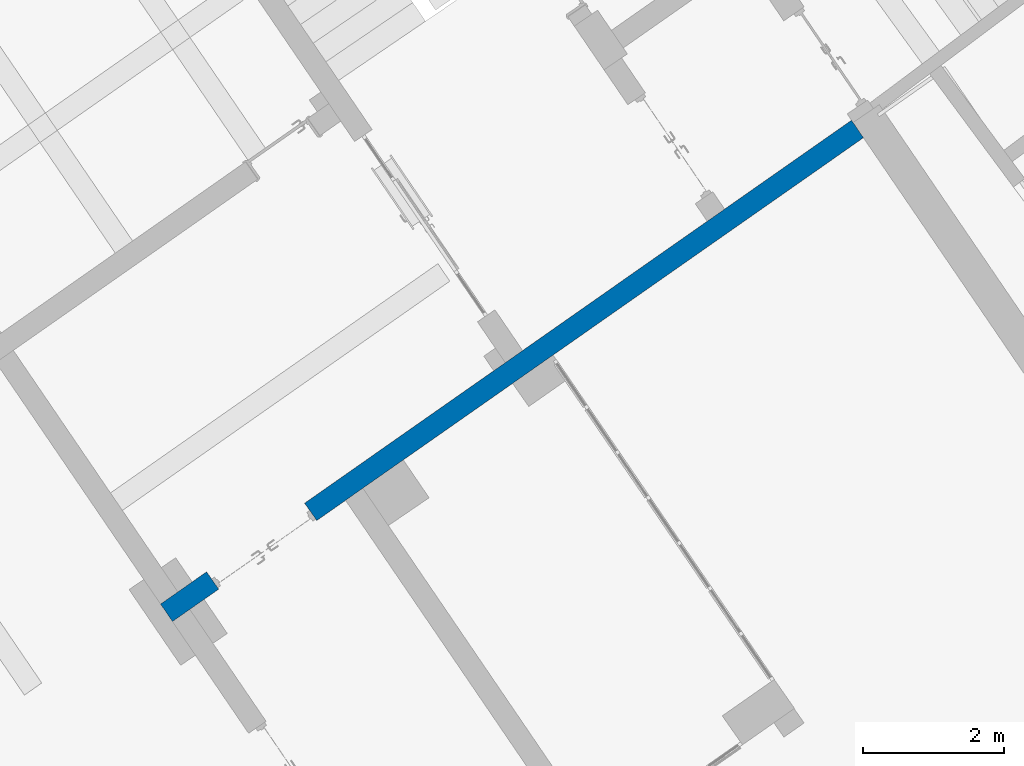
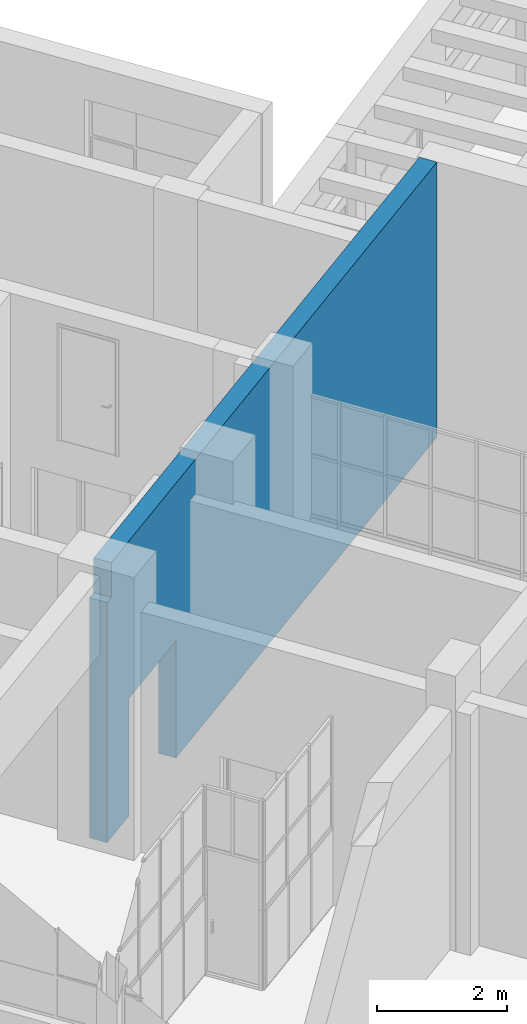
# One storey, part 130 of 157: 1 wall, 1 opening.
"""IFC2X3 building model written with IfcOpenShell, lengths in millimetres."""

from ifc_helpers import new_model, entity, si_unit, converted_unit, derived_unit, direction, frame, frame_2d, origin, place, context, subcontext, project, spatial, rectangle, extrude, faceted_brep, material, layer, layer_set, type_object, element, save


model = new_model("IFC2X3")

# Units and contexts
model_context = context("Model", 3, precision=0.01, world=origin(), true_north=direction((6.123031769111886e-17, 1.0)))
body_context = subcontext(model_context, "Body", "Model", "MODEL_VIEW")
ifc_project = project(units=[si_unit("LENGTHUNIT", "METRE", prefix="MILLI"), si_unit("AREAUNIT", "SQUARE_METRE"), si_unit("VOLUMEUNIT", "CUBIC_METRE"), converted_unit("PLANEANGLEUNIT", "DEGREE", entity("IfcRatioMeasure", 0.017453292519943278), si_unit("PLANEANGLEUNIT", "RADIAN"), dimensions=[0, 0, 0, 0, 0, 0, 0]), si_unit("MASSUNIT", "GRAM", prefix="KILO"), derived_unit("MASSDENSITYUNIT", [(si_unit("MASSUNIT", "GRAM", prefix="KILO"), 1), (si_unit("LENGTHUNIT", "METRE"), -3)]), derived_unit("MOMENTOFINERTIAUNIT", [(si_unit("LENGTHUNIT", "METRE"), 4)]), si_unit("TIMEUNIT", "SECOND"), si_unit("FREQUENCYUNIT", "HERTZ"), si_unit("THERMODYNAMICTEMPERATUREUNIT", "DEGREE_CELSIUS"), derived_unit("THERMALTRANSMITTANCEUNIT", [(si_unit("MASSUNIT", "GRAM", prefix="KILO"), 1), (si_unit("THERMODYNAMICTEMPERATUREUNIT", "KELVIN"), -1), (si_unit("TIMEUNIT", "SECOND"), -3)]), derived_unit("THERMALCONDUCTANCEUNIT", [(si_unit("MASSUNIT", "GRAM", prefix="KILO"), 1), (si_unit("LENGTHUNIT", "METRE"), 1), (si_unit("THERMODYNAMICTEMPERATUREUNIT", "KELVIN"), -1), (si_unit("TIMEUNIT", "SECOND"), -3)]), derived_unit("VOLUMETRICFLOWRATEUNIT", [(si_unit("LENGTHUNIT", "METRE"), 3), (si_unit("TIMEUNIT", "SECOND"), -1)]), derived_unit("MASSFLOWRATEUNIT", [(si_unit("MASSUNIT", "GRAM", prefix="KILO"), 1), (si_unit("TIMEUNIT", "SECOND"), -1)]), derived_unit("ROTATIONALFREQUENCYUNIT", [(si_unit("TIMEUNIT", "SECOND"), -1)]), si_unit("ELECTRICCURRENTUNIT", "AMPERE"), si_unit("ELECTRICVOLTAGEUNIT", "VOLT"), si_unit("POWERUNIT", "WATT"), converted_unit("FORCEUNIT", "KIP", entity("IfcRatioMeasure", 2.088543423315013e-05), si_unit("FORCEUNIT", "NEWTON"), dimensions=[1, 1, -2, 0, 0, 0, 0]), si_unit("ILLUMINANCEUNIT", "LUX"), si_unit("LUMINOUSFLUXUNIT", "LUMEN"), si_unit("LUMINOUSINTENSITYUNIT", "CANDELA"), derived_unit("USERDEFINED", [(si_unit("MASSUNIT", "GRAM", prefix="KILO"), -1), (si_unit("LENGTHUNIT", "METRE"), -2), (si_unit("TIMEUNIT", "SECOND"), 3), (si_unit("LUMINOUSFLUXUNIT", "LUMEN"), 1)]), derived_unit("USERDEFINED", [(si_unit("MASSUNIT", "GRAM", prefix="KILO"), 1), (si_unit("LENGTHUNIT", "METRE"), 3), (si_unit("TIMEUNIT", "SECOND"), -3), (si_unit("ELECTRICCURRENTUNIT", "AMPERE"), -2)]), derived_unit("USERDEFINED", [(si_unit("LENGTHUNIT", "METRE"), 2), (si_unit("TIMEUNIT", "SECOND"), -2)]), derived_unit("SOUNDPOWERUNIT", [(si_unit("MASSUNIT", "GRAM", prefix="KILO"), 1), (si_unit("LENGTHUNIT", "METRE"), 2), (si_unit("TIMEUNIT", "SECOND"), -3)]), derived_unit("SOUNDPRESSUREUNIT", [(si_unit("MASSUNIT", "GRAM", prefix="KILO"), 1), (si_unit("LENGTHUNIT", "METRE"), -1), (si_unit("TIMEUNIT", "SECOND"), -2)]), derived_unit("LINEARVELOCITYUNIT", [(si_unit("LENGTHUNIT", "METRE"), 1), (si_unit("TIMEUNIT", "SECOND"), -1)]), si_unit("PRESSUREUNIT", "PASCAL"), derived_unit("USERDEFINED", [(si_unit("LENGTHUNIT", "METRE"), -2), (si_unit("MASSUNIT", "GRAM", prefix="KILO"), 1), (si_unit("TIMEUNIT", "SECOND"), -2)]), derived_unit("LINEARFORCEUNIT", [(si_unit("MASSUNIT", "GRAM", prefix="KILO"), 1), (si_unit("LENGTHUNIT", "METRE"), 1), (si_unit("TIMEUNIT", "SECOND"), -2), (si_unit("LENGTHUNIT", "METRE"), -1)]), derived_unit("PLANARFORCEUNIT", [(si_unit("MASSUNIT", "GRAM", prefix="KILO"), 1), (si_unit("LENGTHUNIT", "METRE"), 1), (si_unit("TIMEUNIT", "SECOND"), -2), (si_unit("LENGTHUNIT", "METRE"), -2)]), derived_unit("SPECIFICHEATCAPACITYUNIT", [(si_unit("LENGTHUNIT", "METRE"), 2), (si_unit("TIMEUNIT", "SECOND"), -2), (si_unit("THERMODYNAMICTEMPERATUREUNIT", "KELVIN"), -1)]), derived_unit("VAPORPERMEABILITYUNIT", [(si_unit("TIMEUNIT", "SECOND"), 1), (si_unit("LENGTHUNIT", "METRE"), -1)]), derived_unit("DYNAMICVISCOSITYUNIT", [(si_unit("MASSUNIT", "GRAM", prefix="KILO"), 1), (si_unit("LENGTHUNIT", "METRE"), -1), (si_unit("TIMEUNIT", "SECOND"), -1)]), derived_unit("THERMALEXPANSIONCOEFFICIENTUNIT", [(si_unit("THERMODYNAMICTEMPERATUREUNIT", "KELVIN"), -1)])], contexts=[model_context])

# Site, building, storey
site_placement = place(None, frame((0.0, 0.0, 0.0), z_axis=(0.0, 0.0, 1.0), x_axis=(0.8191520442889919, 0.5735764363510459, 0.0)))
site = spatial("IfcSite", under=ifc_project, at=site_placement, Name="Default", CompositionType="ELEMENT")
building_placement = place(site_placement, origin())
building = spatial("IfcBuilding", under=site, at=building_placement, CompositionType="ELEMENT")
storey_placement = place(building_placement, origin())
storey = spatial("IfcBuildingStorey", under=building, at=storey_placement, Name="1.EG +0.00", CompositionType="ELEMENT", Elevation=-4.331468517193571e-12)

# Wall, opening
ifc_material = material(Name="Analytical Wall Surface_CJC")
ifc_layer = layer(ifc_material, 300.0)
ifc_layer_set = layer_set([ifc_layer], Name="Basic Wall:Wand_Innen_30")
wall_type = type_object("IfcWallType", Name="Basic Wall:Wand_Innen_30", PredefinedType="STANDARD", material=ifc_layer_set)
wall_placement = place(storey_placement, frame((-216459.90797495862, 163971.35891435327, 0.0)))
wall = element("IfcWall", 1, at=wall_placement, inside=storey, type_object=wall_type, Name="Basic Wall:Wand_Innen_30", ObjectType="Basic Wall:Wand_Innen_30", context=body_context, shape_type="Brep", body=[
    faceted_brep([(11975.7313052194, -150.0, 5150.0), (6595.15489703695, -150.0, 5150.0), (5895.15489703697, -150.0, 5150.0), (4000.093185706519, -150.0, 5150.0), (3200.0283608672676, -150.0, 5150.0), (547.2675047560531, -150.0, 5150.0), (151.92174753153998, -150.0, 5150.0), (151.92174753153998, -150.0, 4500.0), (0.0, -150.0, 4500.0), (0.0, -150.0, 3700.0), (0.0, -150.0, 0.0), (300.02430931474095, -150.0, 0.0), (547.2675047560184, -150.0, 0.0), (800.6247463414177, -150.0, 0.0), (800.6247463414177, -150.0, 2200.0), (2500.6247463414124, -150.0, 2200.0), (2500.6247463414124, -150.0, 0.0), (3000.0, -150.0, 0.0), (3300.024309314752, -150.0, 0.0), (4000.0931857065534, -150.0, 0.0), (5895.15489703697, -150.0, 0.0), (6595.154897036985, -150.0, 0.0), (11975.739408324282, -150.0, 0.0), (11975.7313052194, -150.0, 2500.0), (151.92174753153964, 150.0, 5150.0), (303.8434950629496, 150.0, 5150.0), (551.0866905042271, 150.0, 5150.0), (5779.048098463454, 150.0, 5150.0), (5895.15489703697, 150.0, 5150.0), (5979.074433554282, 150.0, 5150.0), (6279.098742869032, 150.0, 5150.0), (6595.15489703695, 150.0, 5150.0), (9479.343861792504, 150.0, 5150.0), (9779.368171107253, 150.0, 5150.0), (11979.55049096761, 150.0, 5150.0), (11979.55859407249, 150.0, 2500.0), (11979.55859407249, 150.0, 0.0), (9779.368171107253, 150.0, 0.0), (9479.343861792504, 150.0, 0.0), (6279.098742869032, 150.0, 0.0), (5979.074433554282, 150.0, 0.0), (5779.048098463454, 150.0, 0.0), (2500.624746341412, 150.0, 0.0), (2500.6247463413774, 150.0, 2200.0), (800.6247463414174, 150.0, 2200.0), (800.6247463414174, 150.0, 0.0), (551.0866905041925, 150.0, 0.0), (303.8434950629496, 150.0, 0.0), (3.8191857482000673, 150.0, 0.0), (3.8191857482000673, 150.0, 3700.0), (3.8191857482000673, 150.0, 4500.0), (151.92174753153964, 150.0, 4500.0), (11979.040398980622, 109.29537398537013, 0.0), (11979.558592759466, 149.99989685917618, 2500.0), (11975.739408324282, -150.0, 2500.0), (11975.739407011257, -150.00010314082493, 2500.0), (11979.55049096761, 150.0, 2500.0)], [[[0, 1, 2, 3, 4, 5, 6, 7, 8, 9, 10, 11, 12, 13, 14, 15, 16, 17, 18, 19, 20, 21, 22, 23]], [[24, 25, 26, 27, 28, 29, 30, 31, 32, 33, 34, 35, 36, 37, 38, 39, 40, 41, 42, 43, 44, 45, 46, 47, 48, 49, 50, 51]], [[10, 48, 47, 46, 45, 13, 12, 11]], [[6, 5, 4, 3, 2, 1, 0, 34, 33, 32, 31, 30, 29, 28, 27, 26, 25, 24]], [[6, 24, 51, 7]], [[7, 51, 50, 8]], [[48, 10, 9, 8, 50, 49]], [[44, 14, 13, 45]], [[14, 44, 43, 15]], [[15, 43, 42, 16]], [[22, 52, 36, 53, 54]], [[34, 0, 55, 56]], [[36, 52, 22, 21, 20, 19, 18, 17, 16, 42, 41, 40, 39, 38, 37]]]),
])
opening_placement = place(wall_placement, frame((2500.624746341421, 150.0, 0.0)))
element("IfcOpeningElement", 2, at=opening_placement, cuts=wall, Name="M_Door-Passage-Double-Flush:160x210:1", ObjectType="Opening", context=body_context, shape_type="SweptSolid", body=[
    extrude(rectangle(XDim=2200.0, YDim=1699.9999999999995, at=frame_2d((1100.0, 849.9999999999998), x_axis=(1.0, 0.0))), frame((0.0, 0.0, 0.0), z_axis=(0.0, -1.0, 0.0), x_axis=(0.0, 0.0, 1.0)), (0.0, 0.0, 1.0), 300.0),
])

save(model, "model.ifc")
